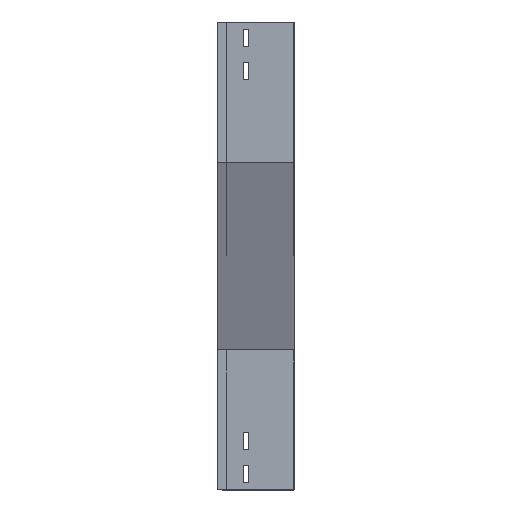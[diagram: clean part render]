
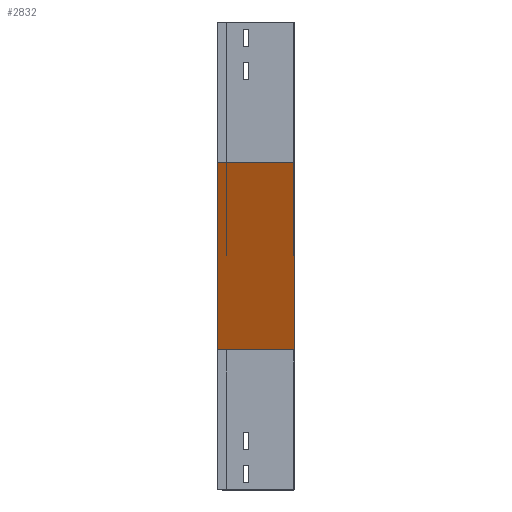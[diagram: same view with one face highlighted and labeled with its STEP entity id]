
A CAD part, left-side view. The second image highlights one B-rep face of the part: STEP entity #2832.
In plain terms, the highlighted planar face has unit normal (-0.923, 0, -0.385).
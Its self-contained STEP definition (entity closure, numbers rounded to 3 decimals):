
#94 = AXIS2_PLACEMENT_3D ( 'NONE', #3252, #2090, #3215 ) ;
#240 = LINE ( 'NONE', #2472, #2671 ) ;
#391 = ORIENTED_EDGE ( 'NONE', *, *, #1309, .F. ) ;
#600 = CARTESIAN_POINT ( 'NONE',  ( 100., 0., -420. ) ) ;
#920 = VECTOR ( 'NONE', #2819, 1000. ) ;
#959 = VECTOR ( 'NONE', #3312, 1000. ) ;
#978 = PLANE ( 'NONE',  #94 ) ;
#1074 = VECTOR ( 'NONE', #2072, 1000. ) ;
#1292 = ORIENTED_EDGE ( 'NONE', *, *, #1530, .F. ) ;
#1309 = EDGE_CURVE ( 'NONE', #1842, #2483, #2479, .T. ) ;
#1412 = CARTESIAN_POINT ( 'NONE',  ( 0., 0., -180. ) ) ;
#1450 = VERTEX_POINT ( 'NONE', #3142 ) ;
#1530 = EDGE_CURVE ( 'NONE', #3402, #1450, #2679, .T. ) ;
#1660 = EDGE_LOOP ( 'NONE', ( #3109, #391, #2758, #1292 ) ) ;
#1673 = CARTESIAN_POINT ( 'NONE',  ( 0., 0., -180. ) ) ;
#1705 = LINE ( 'NONE', #3098, #920 ) ;
#1842 = VERTEX_POINT ( 'NONE', #2878 ) ;
#2072 = DIRECTION ( 'NONE',  ( 0., 1., 0. ) ) ;
#2090 = DIRECTION ( 'NONE',  ( 0.923, 0., 0.385 ) ) ;
#2199 = DIRECTION ( 'NONE',  ( 0.385, 0., -0.923 ) ) ;
#2472 = CARTESIAN_POINT ( 'NONE',  ( 0., 0., -180. ) ) ;
#2479 = LINE ( 'NONE', #1673, #959 ) ;
#2483 = VERTEX_POINT ( 'NONE', #1412 ) ;
#2671 = VECTOR ( 'NONE', #2199, 1000. ) ;
#2679 = LINE ( 'NONE', #3503, #1074 ) ;
#2758 = ORIENTED_EDGE ( 'NONE', *, *, #3480, .T. ) ;
#2819 = DIRECTION ( 'NONE',  ( 0.385, 0., -0.923 ) ) ;
#2832 = ADVANCED_FACE ( 'NONE', ( #3486 ), #978, .F. ) ;
#2878 = CARTESIAN_POINT ( 'NONE',  ( 0., 100., -180. ) ) ;
#2989 = EDGE_CURVE ( 'NONE', #2483, #3402, #240, .T. ) ;
#3098 = CARTESIAN_POINT ( 'NONE',  ( 0., 100., -180. ) ) ;
#3109 = ORIENTED_EDGE ( 'NONE', *, *, #2989, .F. ) ;
#3142 = CARTESIAN_POINT ( 'NONE',  ( 100., 100., -420. ) ) ;
#3215 = DIRECTION ( 'NONE',  ( 0.385, 0., -0.923 ) ) ;
#3252 = CARTESIAN_POINT ( 'NONE',  ( 0., 0., -180. ) ) ;
#3312 = DIRECTION ( 'NONE',  ( 0., -1., 0. ) ) ;
#3402 = VERTEX_POINT ( 'NONE', #600 ) ;
#3480 = EDGE_CURVE ( 'NONE', #1842, #1450, #1705, .T. ) ;
#3486 = FACE_OUTER_BOUND ( 'NONE', #1660, .T. ) ;
#3503 = CARTESIAN_POINT ( 'NONE',  ( 100., 0., -420. ) ) ;
